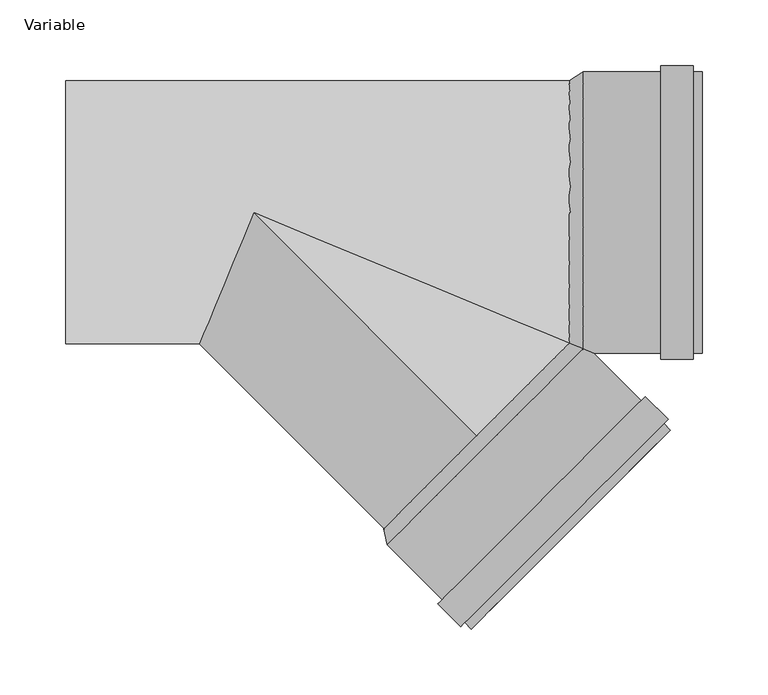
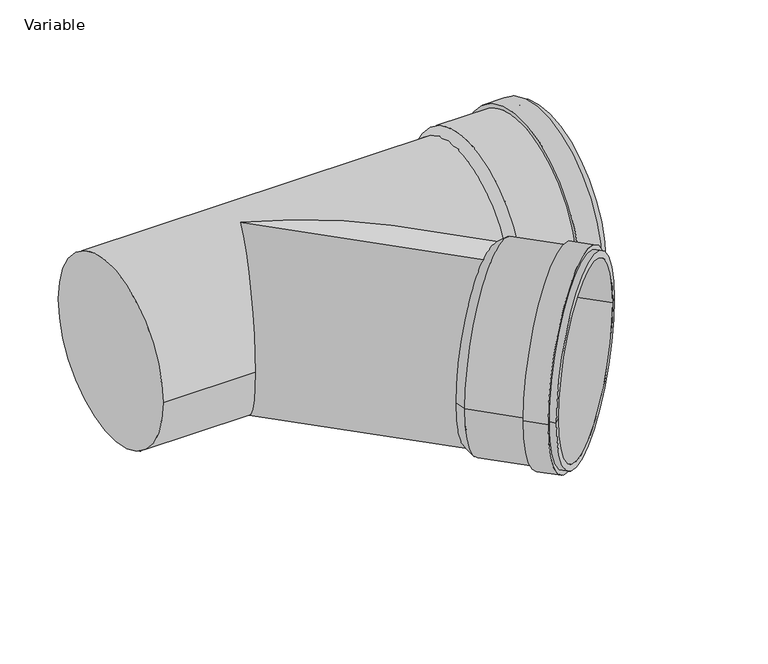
"""IFC4 building model written with IfcOpenShell, lengths in millimetres: pipe fitting geometry, AliaxisFR_Friaphon_Branch_FR : Variable."""

import ifcopenshell
import ifcopenshell.guid

model = None  # the IFC model being written
_history = None  # IfcOwnerHistory: only IFC2X3 demands one
_inside = {}  # id of a spatial element -> (the spatial element, [elements in it])
_under = {}  # id of a project, library or spatial element -> (it, [spatial elements below it])
_declared = {}  # id of a project -> (the project, [libraries it declares])
_typed = {}  # id of a type object -> (the type object, [elements of that type])
_made_of = {}  # id of a material, layer set ... -> (it, [elements and type objects made of it])


def new_model(schema):
    """Start an empty IFC model of exactly this schema.

    Asked for "IFC4X3", IfcOpenShell would pick the latest addendum, in which some entities
    have other attributes; the version numbers below select the first issue.
    IFC2X3 requires an IfcOwnerHistory on every rooted entity: one is made here for all.
    """
    global model, _history
    if schema == "IFC4X3":
        model = ifcopenshell.file(schema_version=(4, 3, 0, 0))
    else:
        model = ifcopenshell.file(schema=schema)
    _inside.clear()
    _under.clear()
    _declared.clear()
    _typed.clear()
    _made_of.clear()
    _history = None
    if model.schema == "IFC2X3":
        org = make("IfcOrganization", Name="unknown")
        user = make(
            "IfcPersonAndOrganization",
            ThePerson=make("IfcPerson", FamilyName="unknown"),
            TheOrganization=org,
        )
        app = make(
            "IfcApplication",
            ApplicationDeveloper=org,
            Version="unknown",
            ApplicationFullName="unknown",
            ApplicationIdentifier="unknown",
        )
        _history = make(
            "IfcOwnerHistory",
            OwningUser=user,
            OwningApplication=app,
            ChangeAction="ADDED",
            CreationDate=0,
        )
    return model


def make(cls, **values):
    """One entity of the class cls with the attributes given. An attribute that is None is left unset."""
    return model.create_entity(
        cls, **{name: value for name, value in values.items() if value is not None}
    )


def rooted(cls, **values):
    """An entity with a GlobalId (a new one), such as an element, a storey or a relation."""
    return make(cls, GlobalId=ifcopenshell.guid.new(), OwnerHistory=_history, **values)


def si_unit(unit_type, name, prefix=None):
    """IfcSIUnit, for example si_unit("LENGTHUNIT", "METRE", prefix="MILLI")."""
    return make("IfcSIUnit", UnitType=unit_type, Prefix=prefix, Name=name)


def assignment(units):
    """IfcUnitAssignment: the units of a project."""
    return None if units is None else make("IfcUnitAssignment", Units=units)


def point(xyz):
    """IfcCartesianPoint."""
    return None if xyz is None else make("IfcCartesianPoint", Coordinates=xyz)


def direction(xyz):
    """IfcDirection."""
    return None if xyz is None else make("IfcDirection", DirectionRatios=xyz)


def frame(location, z_axis=None, x_axis=None):
    """IfcAxis2Placement3D, a coordinate frame: its origin and axes. An axis left out is left unset."""
    return make(
        "IfcAxis2Placement3D",
        Location=point(location),
        Axis=direction(z_axis),
        RefDirection=direction(x_axis),
    )


def origin():
    """The frame at (0, 0, 0) with its axes left unset."""
    return frame((0.0, 0.0, 0.0))


def place(relative_to, where):
    """IfcLocalPlacement: puts the frame where relative to a parent placement (None: the world)."""
    return make(
        "IfcLocalPlacement", PlacementRelTo=relative_to, RelativePlacement=where
    )


def context(
    kind, dimensions, precision=None, world=None, true_north=None, identifier=None
):
    """IfcGeometricRepresentationContext, for example the 3D "Model" context."""
    return make(
        "IfcGeometricRepresentationContext",
        ContextIdentifier=identifier,
        ContextType=kind,
        CoordinateSpaceDimension=dimensions,
        Precision=precision,
        WorldCoordinateSystem=world,
        TrueNorth=true_north,
    )


def project(units=None, contexts=None):
    """IfcProject with its units and contexts."""
    return rooted(
        "IfcProject",
        Name="project",
        RepresentationContexts=contexts,
        UnitsInContext=assignment(units),
    )


def spatial(cls, under=None, at=None, **own):
    """A site, building, storey or space (cls), placed at a placement, below another one or the project."""
    s = rooted(cls, ObjectPlacement=at, **own)
    if under is not None:
        _under.setdefault(under.id(), (under, []))[1].append(s)
    return s


def polyline(points):
    """IfcPolyline through the points."""
    return make("IfcPolyline", Points=[point(p) for p in points])


def circle_curve(where, radius):
    """IfcCircle in the frame where."""
    return make("IfcCircle", Position=where, Radius=radius)


def ellipse_curve(where, semi_axis1, semi_axis2):
    """IfcEllipse in the frame where."""
    return make(
        "IfcEllipse", Position=where, SemiAxis1=semi_axis1, SemiAxis2=semi_axis2
    )


def shape(context_of_items, identifier, shape_type, items):
    """IfcShapeRepresentation: the items that make up one representation, for example the "Body"."""
    return make(
        "IfcShapeRepresentation",
        ContextOfItems=context_of_items,
        RepresentationIdentifier=identifier,
        RepresentationType=shape_type,
        Items=items,
    )


def source(mapping_origin, context_of_items, identifier, shape_type, items):
    """IfcRepresentationMap: a shape defined once, which mapped items show again and again."""
    return make(
        "IfcRepresentationMap",
        MappingOrigin=mapping_origin,
        MappedRepresentation=shape(context_of_items, identifier, shape_type, items),
    )


def transform(
    local_origin,
    x_axis=None,
    y_axis=None,
    z_axis=None,
    scale=None,
    scale2=None,
    scale3=None,
    uniform=True,
):
    """IfcCartesianTransformationOperator3D, or its non-uniform kind. x_axis, y_axis, z_axis: its Axis1, 2, 3."""
    if uniform:
        return make(
            "IfcCartesianTransformationOperator3D",
            Axis1=direction(x_axis),
            Axis2=direction(y_axis),
            LocalOrigin=point(local_origin),
            Scale=scale,
            Axis3=direction(z_axis),
        )
    return make(
        "IfcCartesianTransformationOperator3DnonUniform",
        Axis1=direction(x_axis),
        Axis2=direction(y_axis),
        LocalOrigin=point(local_origin),
        Scale=scale,
        Axis3=direction(z_axis),
        Scale2=scale2,
        Scale3=scale3,
    )


def mapped(mapping_source, mapping_target):
    """IfcMappedItem: shows the shape of a source again, moved by a transform."""
    return make(
        "IfcMappedItem", MappingSource=mapping_source, MappingTarget=mapping_target
    )


def made_of(thing, what):
    """Note that an element or type object is made of a material, layer set ...; save() writes the relation."""
    if what is not None:
        _made_of.setdefault(what.id(), (what, []))[1].append(thing)
    return thing


def element(
    cls,
    number,
    at=None,
    inside=None,
    cuts=None,
    type_object=None,
    material=None,
    context=None,
    identifier="Body",
    shape_type=None,
    held_by="IfcProductDefinitionShape",
    body=None,
    shapes=None,
    **own,
):
    """One element of the class cls, such as IfcWall. Its Tag is "e" and its number.

    at: its placement. inside: the storey or other place that contains it. cuts: it is an
    opening in that element (IfcRelVoidsElement). A single representation is given by context,
    identifier, shape_type and body (its items); several are given by shapes. held_by: the class
    of the entity that holds the representations. save() writes the other relations.
    """
    e = rooted(cls, Tag="e%d" % number, ObjectPlacement=at, **own)
    if body is not None:
        shapes = [shape(context, identifier, shape_type, body)]
    if shapes is not None:
        e.Representation = make(held_by, Representations=shapes)
    if inside is not None:
        _inside.setdefault(inside.id(), (inside, []))[1].append(e)
    if cuts is not None:
        rooted(
            "IfcRelVoidsElement", RelatingBuildingElement=cuts, RelatedOpeningElement=e
        )
    if type_object is not None:
        _typed.setdefault(type_object.id(), (type_object, []))[1].append(e)
    return made_of(e, material)


def aggregate(whole, parts):
    """IfcRelAggregates: a whole, such as a stair, and the parts it consists of."""
    return rooted("IfcRelAggregates", RelatingObject=whole, RelatedObjects=parts)


def save(model, path):
    """Write the relations noted so far, then the file.

    IfcRelAggregates (storeys below a building ...), IfcRelContainedInSpatialStructure (elements
    in a storey), IfcRelDefinesByType, IfcRelAssociatesMaterial and IfcRelDeclares: one each for
    every whole, place, type object, material and project.
    """
    for whole, parts in _under.values():
        aggregate(whole, parts)
    for where, things in _inside.values():
        rooted(
            "IfcRelContainedInSpatialStructure",
            RelatedElements=things,
            RelatingStructure=where,
        )
    for kind, things in _typed.values():
        rooted("IfcRelDefinesByType", RelatedObjects=things, RelatingType=kind)
    for what, things in _made_of.values():
        rooted("IfcRelAssociatesMaterial", RelatedObjects=things, RelatingMaterial=what)
    for by, libraries in _declared.values():
        rooted("IfcRelDeclares", RelatingContext=by, RelatedDefinitions=libraries)
    model.write(path)


def plane_surface(at):
    """IfcPlane: the flat surface through the origin of the frame at, square to its z axis."""
    return make("IfcPlane", Position=at)


def cylinder_surface(at, radius):
    """IfcCylindricalSurface: all points at the distance radius from the z axis of the frame at."""
    return make("IfcCylindricalSurface", Position=at, Radius=radius)


def revolved_surface(curve, axis_point, axis_direction):
    """IfcSurfaceOfRevolution: the curve turned about the line through axis_point along axis_direction."""
    return make(
        "IfcSurfaceOfRevolution",
        SweptCurve=make("IfcArbitraryOpenProfileDef", ProfileType="CURVE", Curve=curve),
        AxisPosition=make("IfcAxis1Placement", Location=point(axis_point), Axis=direction(axis_direction)),
    )


def advanced_brep(points, edges, surfaces, faces):
    """IfcAdvancedBrep: a solid bounded by faces that lie on surfaces and meet in shared edges.

    An edge is (start, end): straight between two places in points (the first is 0);
    or (start, end, curve); or (start, end, curve, False) where it runs against its curve.
    A face is (place in surfaces, loops), or (place, loops, False) where it looks against
    its surface's normal. A loop lists edges by number (the first is 1), with a minus sign
    where the edge is run from its end to its start. The first loop is the outer one.
    """
    corners = [point(p) for p in points]
    vertices = [make("IfcVertexPoint", VertexGeometry=c) for c in corners]
    made = []
    for start, end, *more in edges:
        made.append(
            make(
                "IfcEdgeCurve",
                EdgeStart=vertices[start],
                EdgeEnd=vertices[end],
                EdgeGeometry=more[0] if more else make("IfcPolyline", Points=[corners[start], corners[end]]),
                SameSense=more[1] if len(more) > 1 else True,
            )
        )
    hull = []
    for where, loops, *sense in faces:
        bounds = []
        for j, loop in enumerate(loops):
            ring = [make("IfcOrientedEdge", EdgeElement=made[abs(k) - 1], Orientation=k > 0) for k in loop]
            bounds.append(
                make(
                    "IfcFaceOuterBound" if j == 0 else "IfcFaceBound",
                    Bound=make("IfcEdgeLoop", EdgeList=ring),
                    Orientation=True,
                )
            )
        hull.append(make("IfcAdvancedFace", Bounds=bounds, FaceSurface=surfaces[where], SameSense=sense[0] if sense else True))
    return make("IfcAdvancedBrep", Outer=make("IfcClosedShell", CfsFaces=hull))


def variable_0d9cdb26(model_context):
    return source(origin(), model_context, "Body", "AdvancedBrep", [
        advanced_brep(
        [(165.4629868, -316.783838, 0.0), (316.783838, -165.4629868, 0.0), (311.8340905, -170.4127343, 0.0), (170.4127343, -311.8340905, 0.0), (140.0071427, -297.6919549, 0.0), (297.6919549, -140.0071427, 0.0), (315.016071, -157.3312588, 0.0), (157.3312588, -315.016071, 0.0), (143.1891232, -294.5099744, 0.0), (294.5099744, -143.1891232, 0.0), (101.4698231, -252.7906743, 0.0), (252.7906743, -101.4698231, 0.0), (240.4163056, -98.9949494, 0.0), (98.9949494, -240.4163056, 0.0), (160.5132393, -311.8340905, 0.0), (311.8340905, -160.5132393, 0.0)],
        [
            (0, 1, circle_curve(frame((241.1234124, -241.1234124, 0.0), z_axis=(0.7071067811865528, -0.7071067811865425, 0.0), x_axis=(0.7071067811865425, 0.7071067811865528, 0.0)), 107.0)),
            (1, 2),
            (2, 3, circle_curve(frame((241.1234124, -241.1234124, 0.0), z_axis=(-0.7071067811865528, 0.7071067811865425, 0.0), x_axis=(0.7071067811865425, 0.7071067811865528, 0.0)), 100.0)),
            (3, 0),
            (1, 0, circle_curve(frame((241.1234124, -241.1234124, 0.0), z_axis=(0.7071067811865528, -0.7071067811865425, 0.0), x_axis=(0.7071067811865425, 0.7071067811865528, 0.0)), 107.0)),
            (3, 2, circle_curve(frame((241.1234124, -241.1234124, 0.0), z_axis=(-0.7071067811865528, 0.7071067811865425, 0.0), x_axis=(0.7071067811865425, 0.7071067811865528, 0.0)), 100.0)),
            (4, 5, circle_curve(frame((218.8495488, -218.8495488, 0.0), z_axis=(0.7071067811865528, -0.7071067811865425, 0.0), x_axis=(0.7071067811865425, 0.7071067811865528, 0.0)), 111.5)),
            (5, 6),
            (6, 7, circle_curve(frame((236.1736649, -236.1736649, 0.0), z_axis=(-0.7071067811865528, 0.7071067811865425, 0.0), x_axis=(0.7071067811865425, 0.7071067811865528, 0.0)), 111.5)),
            (7, 4),
            (5, 4, circle_curve(frame((218.8495488, -218.8495488, 0.0), z_axis=(0.7071067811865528, -0.7071067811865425, 0.0), x_axis=(0.7071067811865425, 0.7071067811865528, 0.0)), 111.5)),
            (7, 6, circle_curve(frame((236.1736649, -236.1736649, 0.0), z_axis=(-0.7071067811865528, 0.7071067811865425, 0.0), x_axis=(0.7071067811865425, 0.7071067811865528, 0.0)), 111.5)),
            (8, 9, circle_curve(frame((218.8495488, -218.8495488, 0.0), z_axis=(0.7071067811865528, -0.7071067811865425, 0.0), x_axis=(0.7071067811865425, 0.7071067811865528, 0.0)), 107.0)),
            (9, 5),
            (4, 8),
            (9, 8, circle_curve(frame((218.8495488, -218.8495488, 0.0), z_axis=(0.7071067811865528, -0.7071067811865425, 0.0), x_axis=(0.7071067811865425, 0.7071067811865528, 0.0)), 107.0)),
            (10, 11, circle_curve(frame((177.1302487, -177.1302487, 0.0), z_axis=(0.7071067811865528, -0.7071067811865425, 0.0), x_axis=(0.7071067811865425, 0.7071067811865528, 0.0)), 107.0)),
            (11, 9),
            (8, 10),
            (11, 10, circle_curve(frame((177.1302487, -177.1302487, 0.0), z_axis=(0.7071067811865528, -0.7071067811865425, 0.0), x_axis=(0.7071067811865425, 0.7071067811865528, 0.0)), 107.0)),
            (2, 12),
            (12, 13, circle_curve(frame((169.7056275, -169.7056275, 0.0), z_axis=(-0.7071067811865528, 0.7071067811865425, 0.0), x_axis=(0.7071067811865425, 0.7071067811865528, 0.0)), 100.0)),
            (13, 3),
            (13, 12, circle_curve(frame((169.7056275, -169.7056275, 0.0), z_axis=(-0.7071067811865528, 0.7071067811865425, 0.0), x_axis=(0.7071067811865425, 0.7071067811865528, 0.0)), 100.0)),
            (12, 11),
            (10, 13),
            (14, 15, circle_curve(frame((236.1736649, -236.1736649, 0.0), z_axis=(0.7071067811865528, -0.7071067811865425, 0.0), x_axis=(0.7071067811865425, 0.7071067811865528, 0.0)), 107.0)),
            (15, 1),
            (0, 14),
            (15, 14, circle_curve(frame((236.1736649, -236.1736649, 0.0), z_axis=(0.7071067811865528, -0.7071067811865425, 0.0), x_axis=(0.7071067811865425, 0.7071067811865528, 0.0)), 107.0)),
            (6, 15),
            (14, 7),
        ],
        [
            plane_surface(frame((241.1234124, -241.1234124, 0.0), z_axis=(0.7071067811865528, -0.7071067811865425, 0.0), x_axis=(0.7071067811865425, 0.7071067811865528, 0.0))),
            cylinder_surface(frame((169.7056275, -169.7056275, 0.0), z_axis=(-0.7071067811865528, 0.7071067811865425, 0.0), x_axis=(0.7071067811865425, 0.7071067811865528, 0.0)), 111.5),
            plane_surface(frame((218.8495488, -218.8495488, 0.0), z_axis=(-0.7071067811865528, 0.7071067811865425, 0.0), x_axis=(0.7071067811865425, 0.7071067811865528, 0.0))),
            cylinder_surface(frame((169.7056275, -169.7056275, 0.0), z_axis=(-0.7071067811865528, 0.7071067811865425, 0.0), x_axis=(0.7071067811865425, 0.7071067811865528, 0.0)), 107.0),
            revolved_surface(polyline([(240.41630561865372, -98.9949493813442, 0.0), (311.83409051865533, -170.41273428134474, 0.0)]), (169.7056275, -169.7056275, 0.0), (-0.7071067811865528, 0.7071067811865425, 0.0)),
            revolved_surface(polyline([(252.7906743, -101.4698231, 0.0), (240.4163056, -98.9949494, 0.0)]), (169.7056275, -169.7056275, 0.0), (-0.7071067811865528, 0.7071067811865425, 0.0)),
            plane_surface(frame((236.1736649, -236.1736649, 0.0), z_axis=(0.7071067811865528, -0.7071067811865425, 0.0), x_axis=(0.7071067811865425, 0.7071067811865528, 0.0))),
        ],
        [
            (0, [[1, 2, 3, 4]]),
            (0, [[5, -4, 6, -2]]),
            (1, [[7, 8, 9, 10]]),
            (1, [[11, -10, 12, -8]]),
            (2, [[13, 14, -7, 15]]),
            (2, [[16, -15, -11, -14]]),
            (3, [[17, 18, -13, 19]]),
            (3, [[20, -19, -16, -18]]),
            (4, [[-3, 21, 22, 23]]),
            (4, [[-6, -23, 24, -21]]),
            (5, [[-22, 25, -17, 26]]),
            (5, [[-24, -26, -20, -25]]),
            (3, [[27, 28, -1, 29]]),
            (3, [[30, -29, -5, -28]]),
            (6, [[-9, 31, -27, 32]]),
            (6, [[-12, -32, -30, -31]]),
        ],
    ),
        advanced_brep(
        [(341.0, -107.0, 0.0), (341.0, 107.0, 0.0), (341.0, 100.0, 0.0), (341.0, -100.0, 0.0), (309.5, -111.5, 0.0), (309.5, 111.5, 0.0), (334.0, 111.5, 0.0), (334.0, -111.5, 0.0), (309.5, -107.0, 0.0), (309.5, 107.0, 0.0), (250.5, -107.0, 0.0), (250.5, 107.0, 0.0), (240.0, 100.0, 0.0), (240.0, -100.0, 0.0), (334.0, -107.0, 0.0), (334.0, 107.0, 0.0)],
        [
            (0, 1, circle_curve(frame((341.0, 0.0, 0.0), z_axis=(1.0, 0.0, 0.0), x_axis=(0.0, 1.0, 0.0)), 107.0)),
            (1, 2),
            (2, 3, circle_curve(frame((341.0, 0.0, 0.0), z_axis=(-1.0, 0.0, 0.0), x_axis=(0.0, 1.0, 0.0)), 100.0)),
            (3, 0),
            (1, 0, circle_curve(frame((341.0, 0.0, 0.0), z_axis=(1.0, 0.0, 0.0), x_axis=(0.0, 1.0, 0.0)), 107.0)),
            (3, 2, circle_curve(frame((341.0, 0.0, 0.0), z_axis=(-1.0, 0.0, 0.0), x_axis=(0.0, 1.0, 0.0)), 100.0)),
            (4, 5, circle_curve(frame((309.5, 0.0, 0.0), z_axis=(1.0, 0.0, 0.0), x_axis=(0.0, 1.0, 0.0)), 111.5)),
            (5, 6),
            (6, 7, circle_curve(frame((334.0, 0.0, 0.0), z_axis=(-1.0, 0.0, 0.0), x_axis=(0.0, 1.0, 0.0)), 111.5)),
            (7, 4),
            (5, 4, circle_curve(frame((309.5, 0.0, 0.0), z_axis=(1.0, 0.0, 0.0), x_axis=(0.0, 1.0, 0.0)), 111.5)),
            (7, 6, circle_curve(frame((334.0, 0.0, 0.0), z_axis=(-1.0, 0.0, 0.0), x_axis=(0.0, 1.0, 0.0)), 111.5)),
            (8, 9, circle_curve(frame((309.5, 0.0, 0.0), z_axis=(1.0, 0.0, 0.0), x_axis=(0.0, 1.0, 0.0)), 107.0)),
            (9, 5),
            (4, 8),
            (9, 8, circle_curve(frame((309.5, 0.0, 0.0), z_axis=(1.0, 0.0, 0.0), x_axis=(0.0, 1.0, 0.0)), 107.0)),
            (10, 11, circle_curve(frame((250.5, 0.0, 0.0), z_axis=(1.0, 0.0, 0.0), x_axis=(0.0, 1.0, 0.0)), 107.0)),
            (11, 9),
            (8, 10),
            (11, 10, circle_curve(frame((250.5, 0.0, 0.0), z_axis=(1.0, 0.0, 0.0), x_axis=(0.0, 1.0, 0.0)), 107.0)),
            (2, 12),
            (12, 13, circle_curve(frame((240.0, 0.0, 0.0), z_axis=(-1.0, 0.0, 0.0), x_axis=(0.0, 1.0, 0.0)), 100.0)),
            (13, 3),
            (13, 12, circle_curve(frame((240.0, 0.0, 0.0), z_axis=(-1.0, 0.0, 0.0), x_axis=(0.0, 1.0, 0.0)), 100.0)),
            (12, 11),
            (10, 13),
            (14, 15, circle_curve(frame((334.0, 0.0, 0.0), z_axis=(1.0, 0.0, 0.0), x_axis=(0.0, 1.0, 0.0)), 107.0)),
            (15, 1),
            (0, 14),
            (15, 14, circle_curve(frame((334.0, 0.0, 0.0), z_axis=(1.0, 0.0, 0.0), x_axis=(0.0, 1.0, 0.0)), 107.0)),
            (6, 15),
            (14, 7),
        ],
        [
            plane_surface(frame((341.0, 0.0, 0.0), z_axis=(1.0, 0.0, 0.0), x_axis=(0.0, 1.0, 0.0))),
            cylinder_surface(frame((240.0, 0.0, 0.0), z_axis=(-1.0, 0.0, 0.0), x_axis=(0.0, 1.0, 0.0)), 111.5),
            plane_surface(frame((309.5, 0.0, 0.0), z_axis=(-1.0, 0.0, 0.0), x_axis=(0.0, 1.0, 0.0))),
            cylinder_surface(frame((240.0, 0.0, 0.0), z_axis=(-1.0, 0.0, 0.0), x_axis=(0.0, 1.0, 0.0)), 107.0),
            revolved_surface(polyline([(240.0, 100.0, 0.0), (341.0, 100.0, 0.0)]), (240.0, 0.0, 0.0), (-1.0, 0.0, 0.0)),
            revolved_surface(polyline([(250.5, 107.0, 0.0), (240.0, 100.0, 0.0)]), (240.0, 0.0, 0.0), (-1.0, 0.0, 0.0)),
            plane_surface(frame((334.0, 0.0, 0.0), z_axis=(1.0, 0.0, 0.0), x_axis=(0.0, 1.0, 0.0))),
        ],
        [
            (0, [[1, 2, 3, 4]]),
            (0, [[5, -4, 6, -2]]),
            (1, [[7, 8, 9, 10]]),
            (1, [[11, -10, 12, -8]]),
            (2, [[13, 14, -7, 15]]),
            (2, [[16, -15, -11, -14]]),
            (3, [[17, 18, -13, 19]]),
            (3, [[20, -19, -16, -18]]),
            (4, [[-3, 21, 22, 23]]),
            (4, [[-6, -23, 24, -21]]),
            (5, [[-22, 25, -17, 26]]),
            (5, [[-24, -26, -20, -25]]),
            (3, [[27, 28, -1, 29]]),
            (3, [[30, -29, -5, -28]]),
            (6, [[-9, 31, -27, 32]]),
            (6, [[-12, -32, -30, -31]]),
        ],
    ),
        advanced_brep(
        [(247.0, -100.0, 0.0), (247.0, 100.0, 0.0), (-143.0, -100.0, 0.0), (-143.0, 100.0, 0.0), (241.4213562, -100.0, 0.0), (0.0, 0.0, -100.0), (-41.4213562, -100.0, 0.0), (0.0, 0.0, 100.0), (174.655375, -174.655375, -100.0), (174.655375, -174.655375, 100.0)],
        [
            (0, 1, circle_curve(frame((247.0, 0.0, 0.0), z_axis=(1.0, 0.0, 0.0), x_axis=(0.0, 1.0, 0.0)), 100.0)),
            (1, 0, circle_curve(frame((247.0, 0.0, 0.0), z_axis=(1.0, 0.0, 0.0), x_axis=(0.0, 1.0, 0.0)), 100.0)),
            (2, 3, circle_curve(frame((-143.0, 0.0, 0.0), z_axis=(-1.0, 0.0, 0.0), x_axis=(0.0, 1.0, 0.0)), 100.0)),
            (3, 2, circle_curve(frame((-143.0, 0.0, 0.0), z_axis=(-1.0, 0.0, 0.0), x_axis=(0.0, 1.0, 0.0)), 100.0)),
            (0, 4),
            (4, 5, ellipse_curve(frame((0.0, 0.0, 0.0), z_axis=(0.3826834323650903, 0.9238795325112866, 0.0), x_axis=(0.9238795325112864, -0.3826834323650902, 0.0)), 261.312593, 100.0)),
            (5, 6, ellipse_curve(frame((0.0, 0.0, 0.0), z_axis=(-0.9238795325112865, 0.3826834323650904, 0.0), x_axis=(0.3826834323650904, 0.9238795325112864, 0.0)), 108.23922, 100.0)),
            (6, 2),
            (3, 1),
            (6, 7, ellipse_curve(frame((0.0, 0.0, 0.0), z_axis=(-0.9238795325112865, 0.3826834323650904, 0.0), x_axis=(0.3826834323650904, 0.9238795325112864, 0.0)), 108.23922, 100.0)),
            (7, 4, ellipse_curve(frame((0.0, 0.0, 0.0), z_axis=(0.3826834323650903, 0.9238795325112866, 0.0), x_axis=(0.9238795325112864, -0.3826834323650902, 0.0)), 261.312593, 100.0)),
            (8, 9, circle_curve(frame((174.655375, -174.655375, 0.0), z_axis=(0.7071067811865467, -0.7071067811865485, 0.0), x_axis=(0.0, 0.0, 1.0)), 100.0)),
            (9, 8, circle_curve(frame((174.655375, -174.655375, 0.0), z_axis=(0.7071067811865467, -0.7071067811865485, 0.0), x_axis=(0.0, 0.0, 1.0)), 100.0)),
            (8, 5),
            (7, 9),
        ],
        [
            plane_surface(frame((247.0, 100.0, 0.0), z_axis=(1.0, 0.0, 0.0), x_axis=(0.0, 0.0, 1.0))),
            plane_surface(frame((-143.0, 100.0, 0.0), z_axis=(-1.0, 0.0, 0.0), x_axis=(0.0, 0.0, -1.0))),
            cylinder_surface(frame((-143.0, 0.0, 0.0), z_axis=(1.0, 0.0, 0.0), x_axis=(0.0, 1.0, 0.0)), 100.0),
            plane_surface(frame((174.655375, -174.655375, 100.0), z_axis=(0.7071067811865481, -0.707106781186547, 0.0), x_axis=(-0.707106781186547, -0.7071067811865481, 0.0))),
            cylinder_surface(frame((174.655375, -174.655375, 0.0), z_axis=(-0.7071067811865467, 0.7071067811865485, 0.0), x_axis=(0.0, 0.0, 1.0)), 100.0),
        ],
        [
            (0, [[1, 2]]),
            (1, [[3, 4]]),
            (2, [[-1, 5, 6, 7, 8, -4, 9]]),
            (2, [[-2, -9, -3, -8, 10, 11, -5]]),
            (3, [[12, 13]]),
            (4, [[-12, 14, -6, -11, 15]]),
            (4, [[-13, -15, -10, -7, -14]]),
        ],
    ),
    ])


if __name__ == "__main__":
    model = new_model("IFC4")
    model_context = context("Model", 3, world=origin())
    ifc_project = project(units=[si_unit("LENGTHUNIT", "METRE", prefix="MILLI")], contexts=[model_context])
    site = spatial("IfcSite", under=ifc_project)
    building = spatial("IfcBuilding", under=site)
    placement = place(None, origin())
    variable_shape = variable_0d9cdb26(model_context)
    element("IfcPipeFitting", 1, ObjectType="AliaxisFR_Friaphon_Branch_FR : Variable", at=placement, inside=building, context=model_context, shape_type="MappedRepresentation", body=[
        mapped(variable_shape, transform((0.0, 0.0, 0.0), x_axis=(1.0, 0.0, 0.0), y_axis=(0.0, 1.0, 0.0), z_axis=(0.0, 0.0, 1.0))),
    ])
    save(model, "model.ifc")
